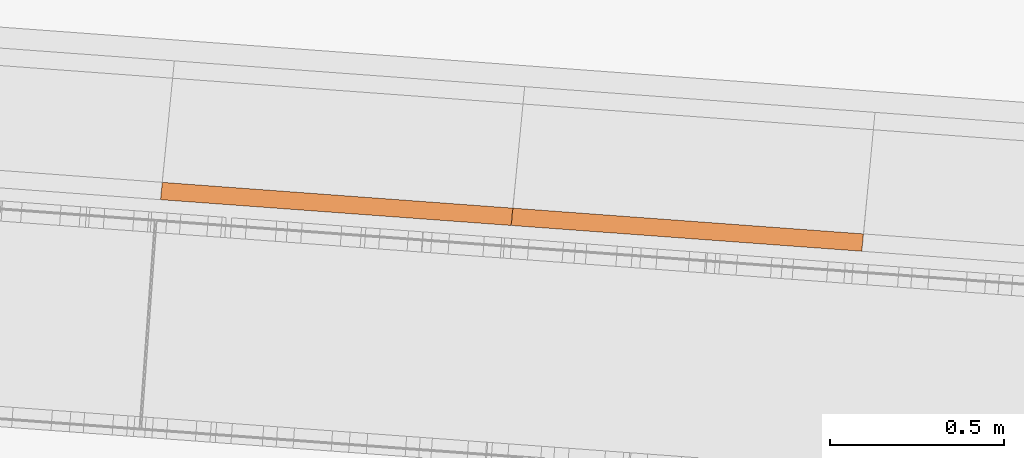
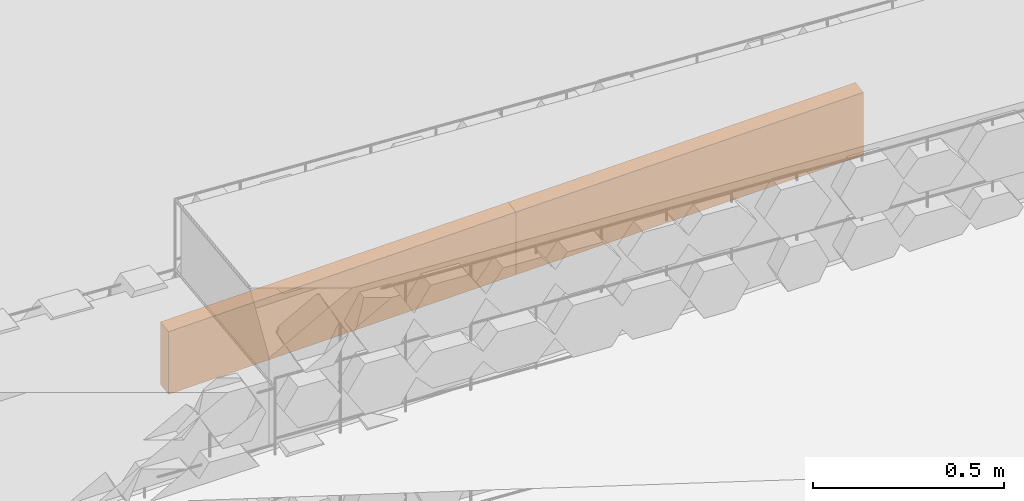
# Not in any storey, part 37 of 46: 2 proxies.
"""IFC4 model written with IfcOpenShell, lengths in metres."""

import ifcopenshell
import ifcopenshell.guid

model = None  # the IFC model being written
_history = None  # IfcOwnerHistory: only IFC2X3 demands one
_inside = {}  # id of a spatial element -> (the spatial element, [elements in it])
_under = {}  # id of a project, library or spatial element -> (it, [spatial elements below it])
_declared = {}  # id of a project -> (the project, [libraries it declares])
_typed = {}  # id of a type object -> (the type object, [elements of that type])
_made_of = {}  # id of a material, layer set ... -> (it, [elements and type objects made of it])


def new_model(schema):
    """Start an empty IFC model of exactly this schema.

    Asked for "IFC4X3", IfcOpenShell would pick the latest addendum, in which some entities
    have other attributes; the version numbers below select the first issue.
    IFC2X3 requires an IfcOwnerHistory on every rooted entity: one is made here for all.
    """
    global model, _history
    if schema == "IFC4X3":
        model = ifcopenshell.file(schema_version=(4, 3, 0, 0))
    else:
        model = ifcopenshell.file(schema=schema)
    _inside.clear()
    _under.clear()
    _declared.clear()
    _typed.clear()
    _made_of.clear()
    _history = None
    if model.schema == "IFC2X3":
        org = make("IfcOrganization", Name="unknown")
        user = make(
            "IfcPersonAndOrganization",
            ThePerson=make("IfcPerson", FamilyName="unknown"),
            TheOrganization=org,
        )
        app = make(
            "IfcApplication",
            ApplicationDeveloper=org,
            Version="unknown",
            ApplicationFullName="unknown",
            ApplicationIdentifier="unknown",
        )
        _history = make(
            "IfcOwnerHistory",
            OwningUser=user,
            OwningApplication=app,
            ChangeAction="ADDED",
            CreationDate=0,
        )
    return model


def make(cls, **values):
    """One entity of the class cls with the attributes given. An attribute that is None is left unset."""
    return model.create_entity(
        cls, **{name: value for name, value in values.items() if value is not None}
    )


def rooted(cls, **values):
    """An entity with a GlobalId (a new one), such as an element, a storey or a relation."""
    return make(cls, GlobalId=ifcopenshell.guid.new(), OwnerHistory=_history, **values)


def si_unit(unit_type, name, prefix=None):
    """IfcSIUnit, for example si_unit("LENGTHUNIT", "METRE", prefix="MILLI")."""
    return make("IfcSIUnit", UnitType=unit_type, Prefix=prefix, Name=name)


def assignment(units):
    """IfcUnitAssignment: the units of a project."""
    return None if units is None else make("IfcUnitAssignment", Units=units)


def point(xyz):
    """IfcCartesianPoint."""
    return None if xyz is None else make("IfcCartesianPoint", Coordinates=xyz)


def direction(xyz):
    """IfcDirection."""
    return None if xyz is None else make("IfcDirection", DirectionRatios=xyz)


def frame(location, z_axis=None, x_axis=None):
    """IfcAxis2Placement3D, a coordinate frame: its origin and axes. An axis left out is left unset."""
    return make(
        "IfcAxis2Placement3D",
        Location=point(location),
        Axis=direction(z_axis),
        RefDirection=direction(x_axis),
    )


def origin_with_axes():
    """The frame at (0, 0, 0) with the z axis (0, 0, 1) and the x axis (1, 0, 0) written out."""
    return frame((0.0, 0.0, 0.0), z_axis=(0.0, 0.0, 1.0), x_axis=(1.0, 0.0, 0.0))


def place(relative_to, where):
    """IfcLocalPlacement: puts the frame where relative to a parent placement (None: the world)."""
    return make(
        "IfcLocalPlacement", PlacementRelTo=relative_to, RelativePlacement=where
    )


def context(
    kind, dimensions, precision=None, world=None, true_north=None, identifier=None
):
    """IfcGeometricRepresentationContext, for example the 3D "Model" context."""
    return make(
        "IfcGeometricRepresentationContext",
        ContextIdentifier=identifier,
        ContextType=kind,
        CoordinateSpaceDimension=dimensions,
        Precision=precision,
        WorldCoordinateSystem=world,
        TrueNorth=true_north,
    )


def subcontext(parent, identifier, kind, view, scale=None):
    """IfcGeometricRepresentationSubContext, for example "Body" below "Model"."""
    return make(
        "IfcGeometricRepresentationSubContext",
        ContextIdentifier=identifier,
        ContextType=kind,
        ParentContext=parent,
        TargetScale=scale,
        TargetView=view,
    )


def project(units=None, contexts=None):
    """IfcProject with its units and contexts."""
    return rooted(
        "IfcProject",
        Name="project",
        RepresentationContexts=contexts,
        UnitsInContext=assignment(units),
    )


def spatial(cls, under=None, at=None, **own):
    """A site, building, storey or space (cls), placed at a placement, below another one or the project."""
    s = rooted(cls, ObjectPlacement=at, **own)
    if under is not None:
        _under.setdefault(under.id(), (under, []))[1].append(s)
    return s


def point_list(points):
    """IfcCartesianPointList2D or 3D."""
    cls = (
        "IfcCartesianPointList2D" if len(points[0]) == 2 else "IfcCartesianPointList3D"
    )
    return make(cls, CoordList=points)


def polygons(points, faces, closed=None, point_numbers=None):
    """IfcPolygonalFaceSet: a face is its outer loop, then its inner loops; points numbered from 1."""
    made = []
    for loops in faces:
        if len(loops) == 1:
            made.append(make("IfcIndexedPolygonalFace", CoordIndex=loops[0]))
        else:
            made.append(
                make(
                    "IfcIndexedPolygonalFaceWithVoids",
                    CoordIndex=loops[0],
                    InnerCoordIndices=loops[1:],
                )
            )
    return make(
        "IfcPolygonalFaceSet",
        Coordinates=point_list(points),
        Closed=closed,
        Faces=made,
        PnIndex=point_numbers,
    )


def shape(context_of_items, identifier, shape_type, items):
    """IfcShapeRepresentation: the items that make up one representation, for example the "Body"."""
    return make(
        "IfcShapeRepresentation",
        ContextOfItems=context_of_items,
        RepresentationIdentifier=identifier,
        RepresentationType=shape_type,
        Items=items,
    )


def material(Name=None, Category=None):
    """IfcMaterial."""
    return make("IfcMaterial", Name=Name, Category=Category)


def made_of(thing, what):
    """Note that an element or type object is made of a material, layer set ...; save() writes the relation."""
    if what is not None:
        _made_of.setdefault(what.id(), (what, []))[1].append(thing)
    return thing


def element(
    cls,
    number,
    at=None,
    inside=None,
    cuts=None,
    type_object=None,
    material=None,
    context=None,
    identifier="Body",
    shape_type=None,
    held_by="IfcProductDefinitionShape",
    body=None,
    shapes=None,
    **own,
):
    """One element of the class cls, such as IfcWall. Its Tag is "e" and its number.

    at: its placement. inside: the storey or other place that contains it. cuts: it is an
    opening in that element (IfcRelVoidsElement). A single representation is given by context,
    identifier, shape_type and body (its items); several are given by shapes. held_by: the class
    of the entity that holds the representations. save() writes the other relations.
    """
    e = rooted(cls, Tag="e%d" % number, ObjectPlacement=at, **own)
    if body is not None:
        shapes = [shape(context, identifier, shape_type, body)]
    if shapes is not None:
        e.Representation = make(held_by, Representations=shapes)
    if inside is not None:
        _inside.setdefault(inside.id(), (inside, []))[1].append(e)
    if cuts is not None:
        rooted(
            "IfcRelVoidsElement", RelatingBuildingElement=cuts, RelatedOpeningElement=e
        )
    if type_object is not None:
        _typed.setdefault(type_object.id(), (type_object, []))[1].append(e)
    return made_of(e, material)


def aggregate(whole, parts):
    """IfcRelAggregates: a whole, such as a stair, and the parts it consists of."""
    return rooted("IfcRelAggregates", RelatingObject=whole, RelatedObjects=parts)


def save(model, path):
    """Write the relations noted so far, then the file.

    IfcRelAggregates (storeys below a building ...), IfcRelContainedInSpatialStructure (elements
    in a storey), IfcRelDefinesByType, IfcRelAssociatesMaterial and IfcRelDeclares: one each for
    every whole, place, type object, material and project.
    """
    for whole, parts in _under.values():
        aggregate(whole, parts)
    for where, things in _inside.values():
        rooted(
            "IfcRelContainedInSpatialStructure",
            RelatedElements=things,
            RelatingStructure=where,
        )
    for kind, things in _typed.values():
        rooted("IfcRelDefinesByType", RelatedObjects=things, RelatingType=kind)
    for what, things in _made_of.values():
        rooted("IfcRelAssociatesMaterial", RelatedObjects=things, RelatingMaterial=what)
    for by, libraries in _declared.values():
        rooted("IfcRelDeclares", RelatingContext=by, RelatedDefinitions=libraries)
    model.write(path)


model = new_model("IFC4")

# Units and contexts
model_context = context("Model", 3, precision=1e-05, world=origin_with_axes(), true_north=direction((0.0, 1.0)))
body_context = subcontext(model_context, "Body", "Model", "MODEL_VIEW")
ifc_project = project(units=[si_unit("VOLUMEUNIT", "CUBIC_METRE"), si_unit("LENGTHUNIT", "METRE"), si_unit("AREAUNIT", "SQUARE_METRE")], contexts=[model_context])

# Site
site_placement = place(None, origin_with_axes())
site = spatial("IfcSite", under=ifc_project, at=site_placement, Name="Lares · Rua das Mercês · artigo 4771")

# Proxies
ifc_material = material(Name="Caleiras · betão", Category="concrete")
proxy_1_placement = place(site_placement, frame((0.0, 0.0, 0.0), z_axis=(0.0, 0.0, 1.0), x_axis=(1.0, -1.03767253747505e-17, 0.0)))
element("IfcBuildingElementProxy", 1, at=proxy_1_placement, inside=site, material=ifc_material, Name="Acesso · canal lateral", ObjectType="Acesso · canal lateral", PredefinedType="USERDEFINED", context=body_context, shape_type="Tessellation", body=[
    polygons([(76.7206140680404, 0.52972265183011, 15.4814510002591), (76.7255519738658, 0.579478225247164, 15.4814510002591), (77.730505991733, 0.505583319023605, 15.5559090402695), (77.7255680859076, 0.455827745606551, 15.5559090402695), (76.7206140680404, 0.52972265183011, 15.6814510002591), (76.7255519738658, 0.579478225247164, 15.6814510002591), (77.730505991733, 0.505583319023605, 15.7559090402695), (77.7255680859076, 0.455827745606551, 15.7559090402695)], [[[4, 3, 2, 1]], [[5, 6, 7, 8]], [[1, 2, 6, 5]], [[2, 3, 7, 6]], [[3, 4, 8, 7]], [[4, 1, 5, 8]]]),
])
proxy_2_placement = place(site_placement, frame((0.0, 0.0, 0.0), z_axis=(0.0, 0.0, 1.0), x_axis=(1.0, -1.03767253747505e-17, 0.0)))
element("IfcBuildingElementProxy", 2, at=proxy_2_placement, inside=site, material=ifc_material, Name="Acesso · canal lateral", ObjectType="Acesso · canal lateral", PredefinedType="USERDEFINED", context=body_context, shape_type="Tessellation", body=[
    polygons([(77.7260732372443, 0.455778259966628, 15.5559090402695), (77.7308848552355, 0.505546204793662, 15.5559090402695), (78.7358623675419, 0.431650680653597, 15.6303670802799), (78.7310507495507, 0.381882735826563, 15.6303670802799), (77.7260732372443, 0.455778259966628, 15.7559090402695), (77.7308848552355, 0.505546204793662, 15.7559090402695), (78.7358623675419, 0.431650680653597, 15.8303670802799), (78.7310507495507, 0.381882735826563, 15.8303670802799)], [[[4, 3, 2, 1]], [[5, 6, 7, 8]], [[1, 2, 6, 5]], [[2, 3, 7, 6]], [[3, 4, 8, 7]], [[4, 1, 5, 8]]]),
])

save(model, "model.ifc")
